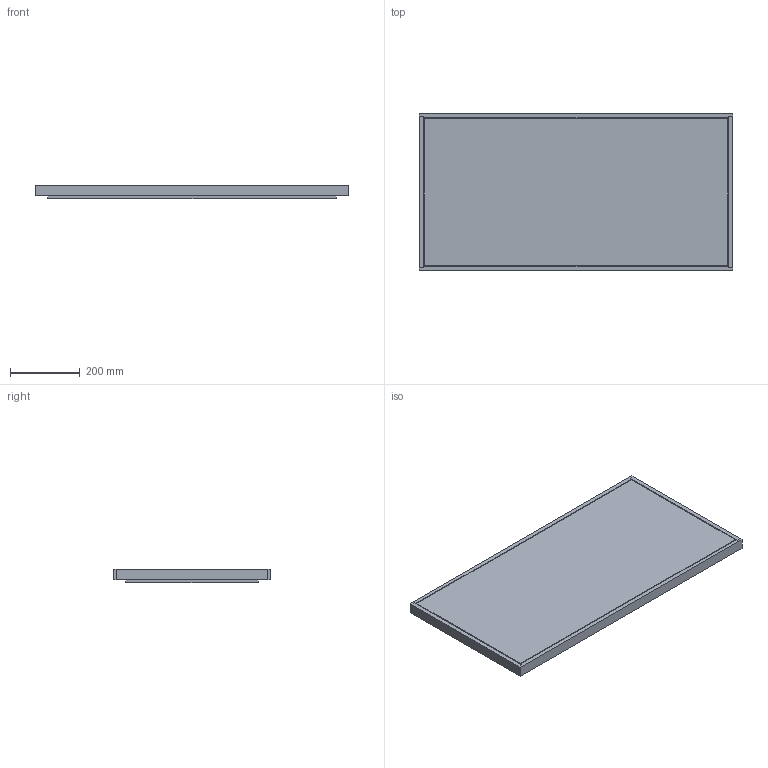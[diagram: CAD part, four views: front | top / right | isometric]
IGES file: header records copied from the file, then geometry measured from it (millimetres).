
Global section: file name: \\Archi-NAS\Comune\X GIOVANNI\SPECCHI\MIRR LED BACK.igs; native system: Rhinoceros ( Feb 23 2021 ); preprocessor: Trout Lake IGES 012 Feb 23 2021; date: 230608.085313; units: millimetre
Bounding box: 900 x 450 x 39 mm (x, y, z)
Surface area: 2370106 mm2 (no closed solid volume)
Topology: 0 solids, 0 shells, 71 faces, 324 edges, 324 vertices
Faces by surface type: bspline 71
